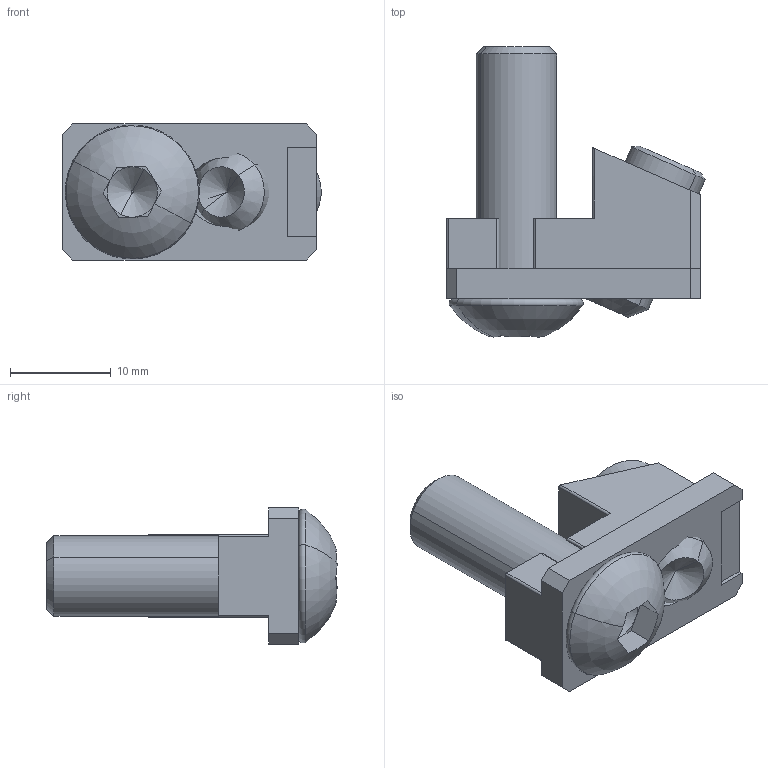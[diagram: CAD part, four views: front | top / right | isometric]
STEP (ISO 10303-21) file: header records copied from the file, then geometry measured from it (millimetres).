
FILE_DESCRIPTION (( 'STEP AP214' ), '1' );
FILE_NAME ('1.3055 Pikakiinnike 40.STEP', '2025-09-08T08:17:57', ( '' ), ( '' ), 'SwSTEP 2.0', 'SolidWorks 2025', '' );
FILE_SCHEMA (( 'AUTOMOTIVE_DESIGN' ));
Length unit declared in the file: millimetre
Products named in the file (1): 1.3055 Pikakiinnike 40
Bounding box: 25.65 x 28.8 x 13.5 mm (x, y, z)
Volume: 3753.7 mm3; surface area: 3193.5 mm2
Topology: 3 solids, 3 shells, 81 faces, 209 edges, 133 vertices
Faces by surface type: plane 48, cylinder 19, cone 10, torus 2, sphere 2
Entity records: 2498 total; most frequent: CARTESIAN_POINT 440, DIRECTION 433, ORIENTED_EDGE 414, EDGE_CURVE 207, AXIS2_PLACEMENT_3D 150, VERTEX_POINT 133, LINE 133, VECTOR 133
